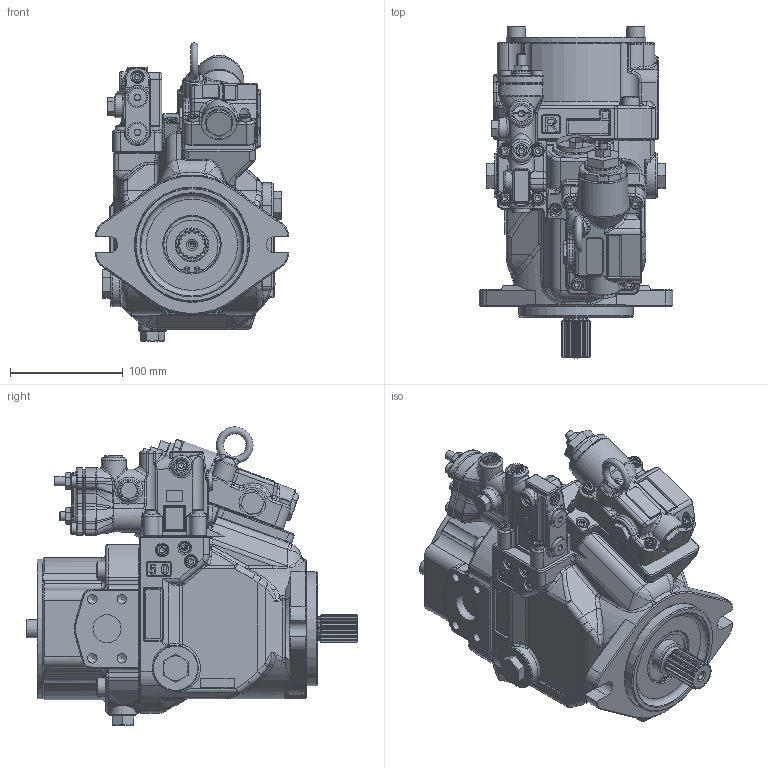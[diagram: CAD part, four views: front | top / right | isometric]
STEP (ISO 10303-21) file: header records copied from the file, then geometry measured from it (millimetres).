
FILE_DESCRIPTION(/* description */ (''),/* implementation_level */ '2;1');
FILE_NAME(/* name */ 'K3VLS50-1NRBBH-L1AAM2.stp',/* time_stamp */ '2025-09-23T11:30:16+01:00',/* author */ ('jhatcher'),/* organization */ (''),/* preprocessor_version */ 'ST-DEVELOPER v20',/* originating_system */ 'Autodesk Inventor 2024',/* authorisation */ '');
FILE_SCHEMA (('AUTOMOTIVE_DESIGN { 1 0 10303 214 3 1 1 }'));
Products named in the file (1): K3VLS50-1NRBBH-L1AAM2
Bounding box: 172 x 295 x 264.99 mm (x, y, z)
Volume: 4705719.1 mm3; surface area: 256144.4 mm2
Topology: 1 solids, 1 shells, 3453 faces, 8764 edges, 5365 vertices
Faces by surface type: plane 1374, cylinder 833, bspline 638, cone 410, torus 182, sphere 16
Full cylindrical faces by diameter (mm): 2.5 x2, 3.15 x1, 4 x3, 8 x3, 8.376 x8, 9.4 x11, 10 x12, 10.106 x4, 11 x12, 12 x11, 16 x9, 17.5 x4, 18 x4, 20 x1, 21 x1, 22 x1, 24 x2, 25 x2, 30 x1, 33 x1, 35 x1, 38 x1, 50 x1, 53 x1, 101.6 x1, 124 x1
Entity records: 122778 total; most frequent: CARTESIAN_POINT 44142, ORIENTED_EDGE 17280, DIRECTION 15107, EDGE_CURVE 8640, AXIS2_PLACEMENT_3D 5526, VERTEX_POINT 5365, LINE 4055, VECTOR 4055
